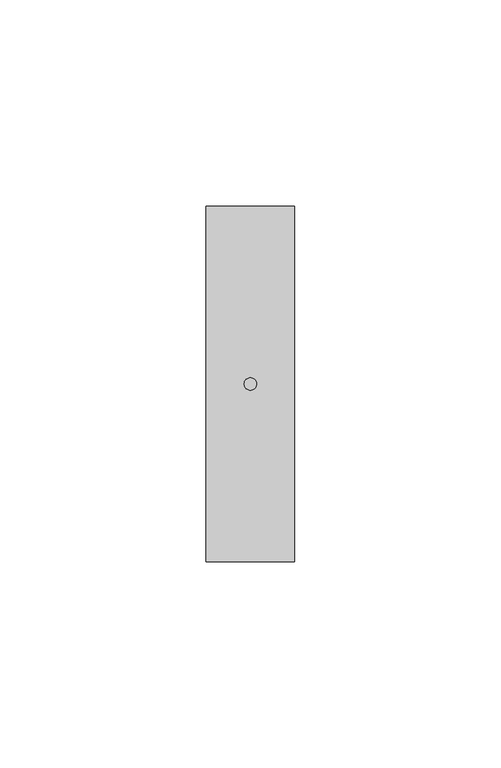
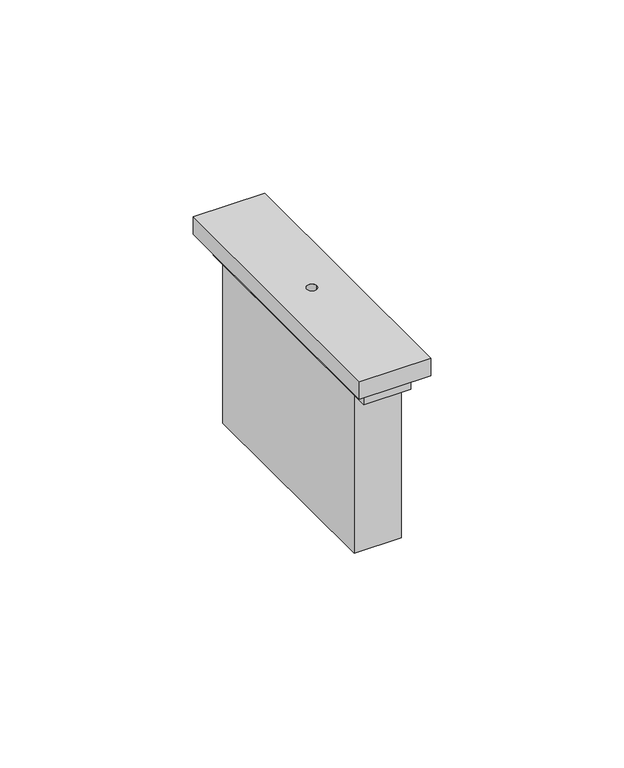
"""IFC4 building model written with IfcOpenShell, lengths in millimetres: proxy geometry, BT_LN_MHU-LettoreProssimita : Lettore Prossimita - Art. K4215 - 1M - Cover Bianco."""

from ifc_helpers import new_model, si_unit, point, frame, origin, origin_with_axes, origin_2d, place, context, project, spatial, polyline, circle_curve, trimmed, segment, composite_curve, outline, extrude, source, transform, mapped, element, save


def communication_devices_93ffdf5a(model_context):
    return source(origin(), model_context, "Body", "SweptSolid", [
        extrude(outline(polyline([(-10.7, -43.0), (-10.7, 43.0), (10.7, 43.0), (10.7, -43.0), (-10.7, -43.0)]), holes=[composite_curve([segment(trimmed(circle_curve(origin_2d(), 1.5), [point((-1.5, 0.0))], [point((1.5, 0.0))], True, "CARTESIAN"), True, "CONTINUOUS"), segment(trimmed(circle_curve(origin_2d(), 1.5), [point((1.5, 0.0))], [point((-1.5, 0.0))], True, "CARTESIAN"), True, "CONTINUOUS")], self_intersect=False)]), frame((0.0, 0.0, 55.5), z_axis=(0.0, 0.0, 1.0), x_axis=(1.0, 0.0, 0.0)), (0.0, 0.0, 1.0), 5.5),
        extrude(outline(polyline([(-7.0, 39.0), (7.0, 39.0), (7.0, -39.0), (-7.0, -39.0), (-7.0, 39.0)])), frame((0.0, 0.0, 50.0), z_axis=(0.0, 0.0, 1.0), x_axis=(1.0, 0.0, 0.0)), (0.0, 0.0, 1.0), 5.5),
        extrude(outline(polyline([(-7.0, 34.0), (7.0, 34.0), (7.0, -34.0), (-7.0, -34.0), (-7.0, 34.0)])), origin_with_axes(), (0.0, 0.0, 1.0), 50.0),
    ])


if __name__ == "__main__":
    model = new_model("IFC4")
    model_context = context("Model", 3, world=origin())
    ifc_project = project(units=[si_unit("LENGTHUNIT", "METRE", prefix="MILLI")], contexts=[model_context])
    site = spatial("IfcSite", under=ifc_project)
    building = spatial("IfcBuilding", under=site)
    placement = place(None, origin())
    communication_devices_shape = communication_devices_93ffdf5a(model_context)
    element("IfcBuildingElementProxy", 1, Name="BT_LN_MHU-LettoreProssimita : Lettore Prossimita - Art. K4215 - 1M - Cover Bianco", ObjectType="BT_LN_MHU-LettoreProssimita : Lettore Prossimita - Art. K4215 - 1M - Cover Bianco", at=placement, inside=building, context=model_context, shape_type="MappedRepresentation", body=[
        mapped(communication_devices_shape, transform((0.0, 0.0, 0.0), x_axis=(1.0, 0.0, 0.0), y_axis=(0.0, 1.0, 0.0), z_axis=(0.0, 0.0, 1.0))),
    ])
    save(model, "model.ifc")
